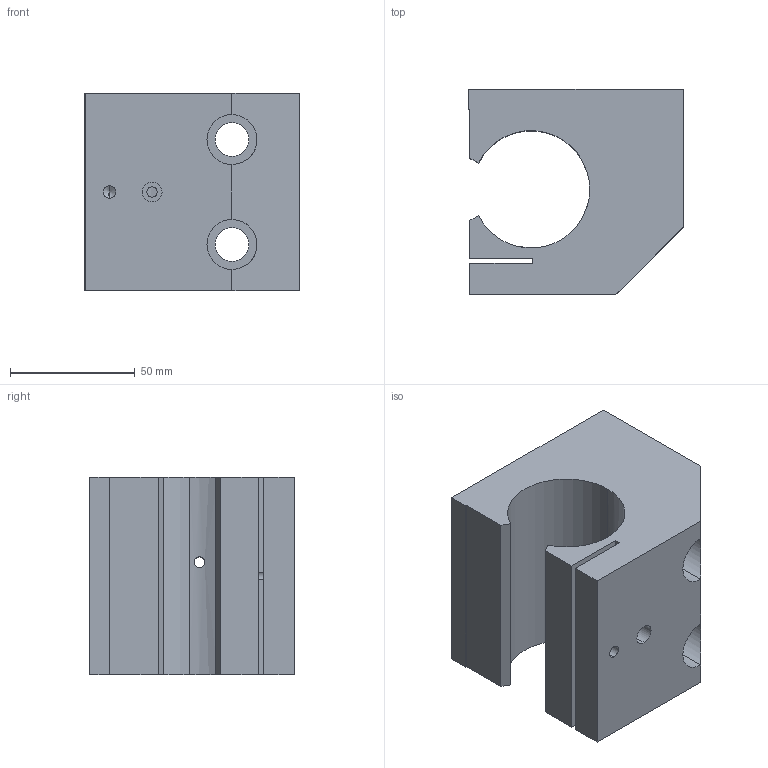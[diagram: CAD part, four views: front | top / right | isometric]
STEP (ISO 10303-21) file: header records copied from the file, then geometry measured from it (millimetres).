
FILE_DESCRIPTION (( 'STEP AP214' ), '1' );
FILE_NAME ('KGSE72-30.step', '2020-03-04T13:24:34', ( '' ), ( '' ), 'SwSTEP 2.0', 'SolidWorks 2019', '' );
FILE_SCHEMA (( 'AUTOMOTIVE_DESIGN' ));
Length unit declared in the file: millimetre
Products named in the file (1): KGSE72-30
Bounding box: 86 x 82 x 79 mm (x, y, z)
Volume: 347317.1 mm3; surface area: 55534.7 mm2
Topology: 1 solids, 1 shells, 44 faces, 120 edges, 77 vertices
Faces by surface type: cylinder 20, plane 20, cone 4
Entity records: 1664 total; most frequent: CARTESIAN_POINT 368, DIRECTION 242, ORIENTED_EDGE 236, EDGE_CURVE 118, AXIS2_PLACEMENT_3D 85, VERTEX_POINT 77, LINE 72, VECTOR 72
